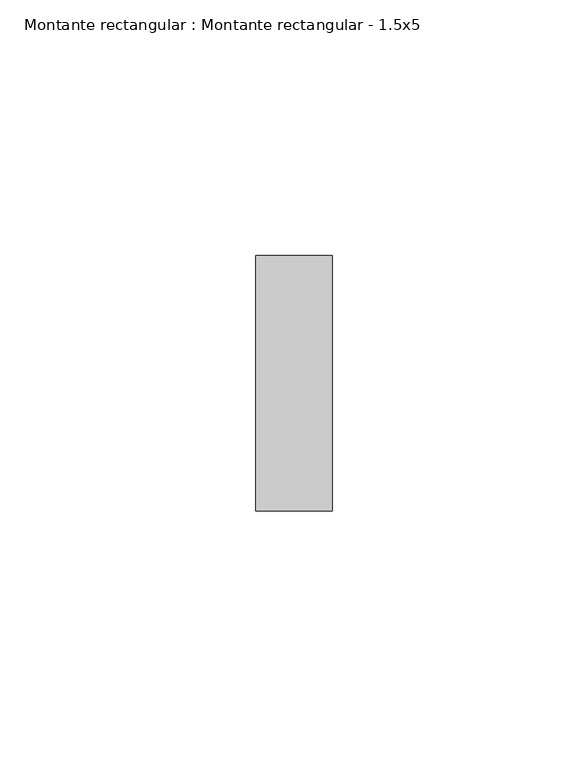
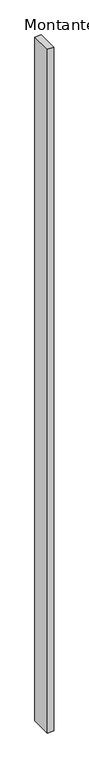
"""IFC4 building model written with IfcOpenShell, lengths in millimetres: member geometry, Montante rectangular : Montante rectangular - 1.5x5."""

from ifc_helpers import new_model, si_unit, frame, origin, place, context, project, spatial, polyline, outline, extrude, source, transform, mapped, element, save


def montante_rectangular_montante_rectangular_1_5x5_73253757(model_context):
    return source(origin(), model_context, "Body", "SweptSolid", [
        extrude(outline(polyline([(7.5, 25.0), (7.5, -25.0), (-7.5, -25.0), (-7.5, 25.0), (7.5, 25.0)])), frame((0.0, 0.0, -1670.0), z_axis=(0.0, 0.0, 1.0), x_axis=(1.0, 0.0, 0.0)), (0.0, 0.0, 1.0), 1670.0),
    ])


if __name__ == "__main__":
    model = new_model("IFC4")
    model_context = context("Model", 3, world=origin())
    ifc_project = project(units=[si_unit("LENGTHUNIT", "METRE", prefix="MILLI")], contexts=[model_context])
    site = spatial("IfcSite", under=ifc_project)
    building = spatial("IfcBuilding", under=site)
    placement = place(None, origin())
    montante_rectangular_montante_rectangular_1_5x5_shape = montante_rectangular_montante_rectangular_1_5x5_73253757(model_context)
    element("IfcMember", 1, ObjectType="Montante rectangular : Montante rectangular - 1.5x5", at=placement, inside=building, context=model_context, shape_type="MappedRepresentation", body=[
        mapped(montante_rectangular_montante_rectangular_1_5x5_shape, transform((0.0, 0.0, 0.0), x_axis=(1.0, 0.0, 0.0), y_axis=(0.0, 1.0, 0.0), z_axis=(0.0, 0.0, 1.0))),
    ])
    save(model, "model.ifc")
